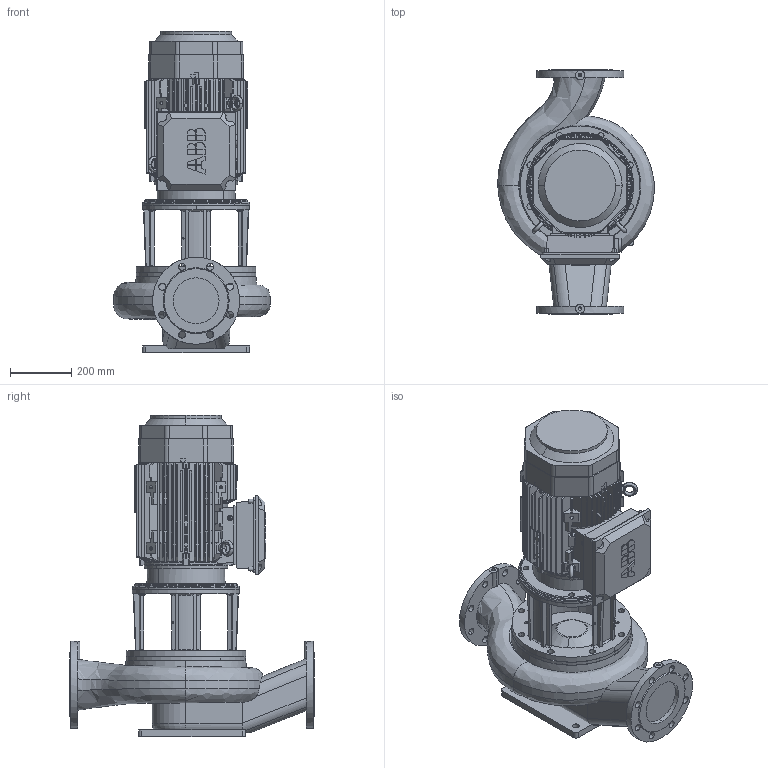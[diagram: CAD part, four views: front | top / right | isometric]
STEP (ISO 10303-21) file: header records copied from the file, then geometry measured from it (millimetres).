
FILE_DESCRIPTION(('STEP AP214'),'1');
FILE_NAME('export.stp','2018-05-30T06:42:23',(' '),(' '),'Spatial InterOp 3D',' ',' ');
FILE_SCHEMA(('AUTOMOTIVE_DESIGN { 1 0 10303 214 1 1 1 1 }'));
Length unit declared in the file: millimetre
Products named in the file (19): W_ALP11536SD110; V_TLL100SAL1202; V_PPALP1153; PPALP1153_Kesken; Tukijalka_ALP1128; IEC160_FRAME; P100781; IEC-160; -simplified-simplified_parts_Ter; 3GZV244000-310999-294000-299999_; -simplified-simplified_parts_Fan; -simplified-simplified_parts_M2_; -simplified-simplified_parts_Sta; Implementation-HOUSING_Lifting_E; 3GZV183002-193006-183002-183999_; 3GZV311000-999999-324000-324001_
Assembly tree (19 placements, depth 4):
  W_ALP11536SD110
    V_TLL100SAL1202
    V_PPALP1153
      PPALP1153_Kesken
      Tukijalka_ALP1128
    IEC160_FRAME
      P100781
      IEC-160
        -simplified-simplified_parts_Ter
        -simplified-simplified_parts_Ter
        3GZV244000-310999-294000-299999_
        -simplified-simplified_parts_Fan
        -simplified-simplified_parts_M2_
        -simplified-simplified_parts_Sta
        Implementation-HOUSING_Lifting_E  x2
        3GZV244000-310999-294000-299999_
        3GZV244000-310999-294000-299999_
        3GZV183002-193006-183002-183999_
        3GZV311000-999999-324000-324001_
Bounding box: 513.08 x 800 x 1051.68 mm (x, y, z)
Volume: 88270527.3 mm3; surface area: 4672463.7 mm2
Topology: 13 solids, 108 shells, 1535 faces, 4258 edges, 2870 vertices
Faces by surface type: bspline 1226, cylinder 184, plane 63, torus 40, cone 22
Entity records: 82045 total; most frequent: CARTESIAN_POINT 28589, ORIENTED_EDGE 7845, STYLED_ITEM 4404, PRESENTATION_STYLE_ASSIGNMENT 4404, COLOUR_RGB 4404, EDGE_CURVE 4129, CURVE_STYLE 2892, DRAUGHTING_PRE_DEFINED_CURVE_FONT 2892
